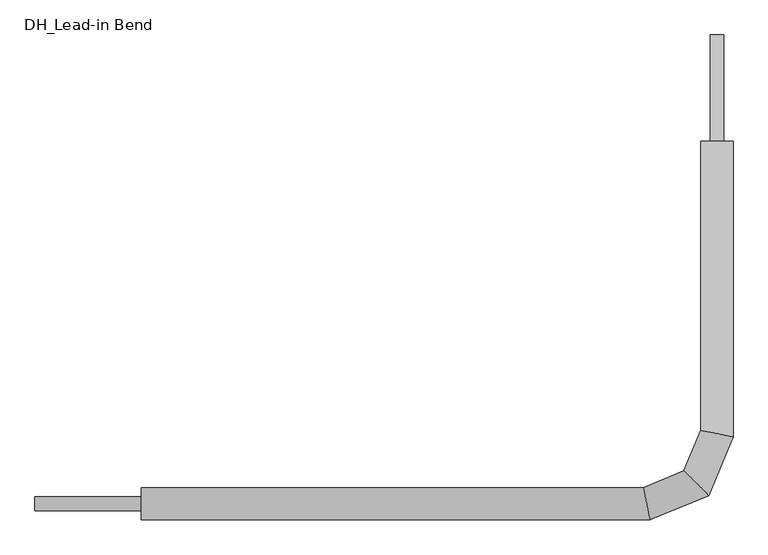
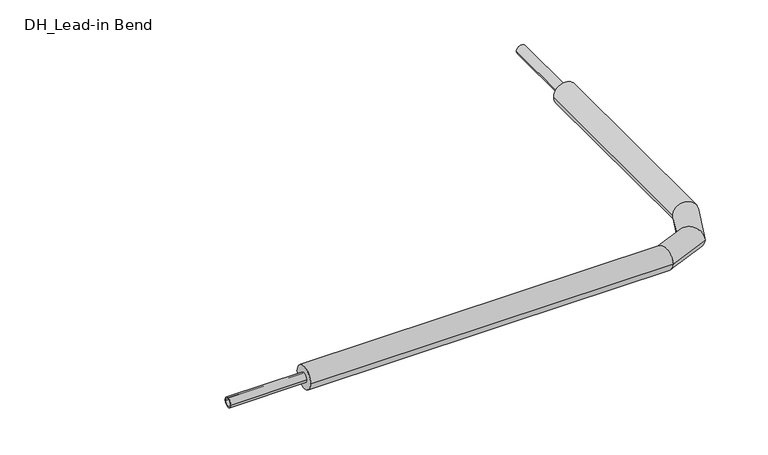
"""IFC4 building model written with IfcOpenShell, lengths in millimetres: pipe fitting geometry, DH_Lead-in Bend : RVT/RVX/RTX UNO 7.4 MKV DW."""

from ifc_helpers import new_model, si_unit, point, frame, origin, origin_2d, place, context, project, spatial, circle_curve, ellipse_curve, trimmed, segment, composite_curve, outline, extrude, source, transform, mapped, element, save
from ifc_brep_helpers import plane_surface, cylinder_surface, advanced_brep


def dh_lead_in_bend_52e7693f(model_context):
    return source(origin(), model_context, "Body", "SolidModel", [
        advanced_brep(
        [(-1350.0, -38.0, 0.0), (-1350.0, 38.0, 0.0), (-157.44133, -38.0, 0.0), (-172.55867, 38.0, 0.0), (38.0, 850.0, 0.0), (-38.0, 850.0, 0.0), (-38.0, 172.55867, 0.0), (38.0, 157.44133, 0.0), (-19.2434402, 19.2434402, 0.0), (-77.411322, 77.411322, 0.0)],
        [
            (0, 1, circle_curve(frame((-1350.0, 0.0, 0.0), z_axis=(-1.0, 0.0, 0.0), x_axis=(0.0, 1.0, 0.0)), 38.0)),
            (1, 0, circle_curve(frame((-1350.0, 0.0, 0.0), z_axis=(-1.0, 0.0, 0.0), x_axis=(0.0, 1.0, 0.0)), 38.0)),
            (0, 2),
            (2, 3, ellipse_curve(frame((-165.0, 0.0, 0.0), z_axis=(-0.9807852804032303, -0.1950903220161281, 0.0), x_axis=(-0.1950903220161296, 0.9807852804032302, 0.0)), 38.744464, 38.0)),
            (3, 1),
            (3, 2, ellipse_curve(frame((-165.0, 0.0, 0.0), z_axis=(-0.9807852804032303, -0.1950903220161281, 0.0), x_axis=(-0.1950903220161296, 0.9807852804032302, 0.0)), 38.744464, 38.0)),
            (4, 5, circle_curve(frame((0.0, 850.0, 0.0), z_axis=(0.0, 1.0, 0.0), x_axis=(-1.0, 0.0, 0.0)), 38.0)),
            (5, 4, circle_curve(frame((0.0, 850.0, 0.0), z_axis=(0.0, 1.0, 0.0), x_axis=(-1.0, 0.0, 0.0)), 38.0)),
            (6, 7, ellipse_curve(frame((0.0, 165.0, 0.0), z_axis=(0.19509032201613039, 0.9807852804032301, 0.0), x_axis=(0.9807852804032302, -0.19509032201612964, 0.0)), 38.744464, 38.0)),
            (7, 4),
            (5, 6),
            (7, 6, ellipse_curve(frame((0.0, 165.0, 0.0), z_axis=(0.19509032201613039, 0.9807852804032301, 0.0), x_axis=(0.9807852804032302, -0.19509032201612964, 0.0)), 38.744464, 38.0)),
            (2, 8),
            (8, 9, ellipse_curve(frame((-48.3273811, 48.3273811, 0.0), z_axis=(-0.707106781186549, -0.7071067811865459, 0.0), x_axis=(-0.7071067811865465, 0.7071067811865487, 0.0)), 41.1309036, 38.0)),
            (9, 3),
            (9, 8, ellipse_curve(frame((-48.3273811, 48.3273811, 0.0), z_axis=(-0.707106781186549, -0.7071067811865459, 0.0), x_axis=(-0.7071067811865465, 0.7071067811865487, 0.0)), 41.1309036, 38.0)),
            (8, 7),
            (6, 9),
        ],
        [
            plane_surface(frame((-1350.0, 0.0, 0.0), z_axis=(-1.0, 0.0, 0.0), x_axis=(0.0, 0.0, 1.0))),
            cylinder_surface(frame((-1350.0, 0.0, 0.0), z_axis=(-1.0, 0.0, 0.0), x_axis=(0.0, 1.0, 0.0)), 38.0),
            plane_surface(frame((0.0, 850.0, 0.0), z_axis=(0.0, 1.0, 0.0), x_axis=(0.0, 0.0, 1.0))),
            cylinder_surface(frame((0.0, 165.0, 0.0), z_axis=(0.0, -1.0, 0.0), x_axis=(-1.0, 0.0, 0.0)), 38.0),
            cylinder_surface(frame((-165.0, 0.0, 0.0), z_axis=(-0.9238795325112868, -0.38268343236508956, 0.0), x_axis=(-0.38268343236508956, 0.9238795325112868, 0.0)), 38.0),
            cylinder_surface(frame((-48.3273811, 48.3273811, 0.0), z_axis=(-0.3826834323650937, -0.9238795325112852, 0.0), x_axis=(-0.9238795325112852, 0.3826834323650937, 0.0)), 38.0),
        ],
        [
            (0, [[1, 2]]),
            (1, [[-1, 3, 4, 5]]),
            (1, [[-2, -5, 6, -3]]),
            (2, [[7, 8]]),
            (3, [[9, 10, -8, 11]]),
            (3, [[12, -11, -7, -10]]),
            (4, [[-4, 13, 14, 15]]),
            (4, [[-6, -15, 16, -13]]),
            (5, [[-14, 17, -9, 18]]),
            (5, [[-16, -18, -12, -17]]),
        ],
    ),
        extrude(outline(composite_curve([segment(trimmed(circle_curve(origin_2d(), 16.0), [point((-16.0, 0.0))], [point((16.0, 0.0))], False, "CARTESIAN"), True, "CONTINUOUS"), segment(trimmed(circle_curve(origin_2d(), 16.0), [point((16.0, 0.0))], [point((-16.0, 0.0))], False, "CARTESIAN"), True, "CONTINUOUS")], self_intersect=False), holes=[composite_curve([segment(trimmed(circle_curve(origin_2d(), 11.6), [point((-11.6, 0.0))], [point((11.6, 0.0))], True, "CARTESIAN"), True, "CONTINUOUS"), segment(trimmed(circle_curve(origin_2d(), 11.6), [point((11.6, 0.0))], [point((-11.6, 0.0))], True, "CARTESIAN"), True, "CONTINUOUS")], self_intersect=False)]), frame((-1600.0, 0.0, 0.0), z_axis=(1.0, 0.0, 0.0), x_axis=(0.0, 1.0, 0.0)), (0.0, 0.0, 1.0), 250.0),
        extrude(outline(composite_curve([segment(trimmed(circle_curve(origin_2d(), 16.0), [point((0.0, 16.0))], [point((0.0, -16.0))], False, "CARTESIAN"), True, "CONTINUOUS"), segment(trimmed(circle_curve(origin_2d(), 16.0), [point((0.0, -16.0))], [point((0.0, 16.0))], False, "CARTESIAN"), True, "CONTINUOUS")], self_intersect=False), holes=[composite_curve([segment(trimmed(circle_curve(origin_2d(), 11.6), [point((0.0, 11.6))], [point((0.0, -11.6))], True, "CARTESIAN"), True, "CONTINUOUS"), segment(trimmed(circle_curve(origin_2d(), 11.6), [point((0.0, -11.6))], [point((0.0, 11.6))], True, "CARTESIAN"), True, "CONTINUOUS")], self_intersect=False)]), frame((0.0, 850.0, 0.0), z_axis=(0.0, 1.0, 0.0), x_axis=(0.0, 0.0, 1.0)), (0.0, 0.0, 1.0), 250.0),
    ])


if __name__ == "__main__":
    model = new_model("IFC4")
    model_context = context("Model", 3, world=origin())
    ifc_project = project(units=[si_unit("LENGTHUNIT", "METRE", prefix="MILLI")], contexts=[model_context])
    site = spatial("IfcSite", under=ifc_project)
    building = spatial("IfcBuilding", under=site)
    placement = place(None, origin())
    dh_lead_in_bend_shape = dh_lead_in_bend_52e7693f(model_context)
    element("IfcPipeFitting", 1, ObjectType="DH_Lead-in Bend : RVT/RVX/RTX UNO 7.4 MKV DW", at=placement, inside=building, context=model_context, shape_type="MappedRepresentation", body=[
        mapped(dh_lead_in_bend_shape, transform((0.0, 0.0, 0.0), x_axis=(1.0, 0.0, 0.0), y_axis=(0.0, 1.0, 0.0), z_axis=(0.0, 0.0, 1.0))),
    ])
    save(model, "model.ifc")
